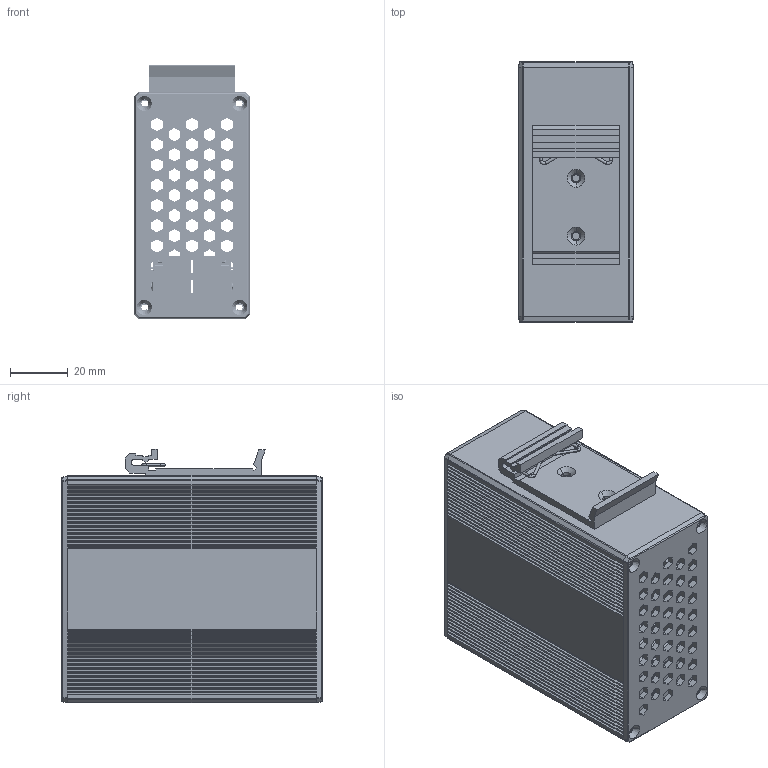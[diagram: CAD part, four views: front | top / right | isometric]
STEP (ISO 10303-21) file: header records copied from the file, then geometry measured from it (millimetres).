
FILE_DESCRIPTION((''),'2;1');
FILE_NAME('PRO_EC_6_SW0001','2025-12-04T09:40:21',('Administrator'),(''),'CREO PARAMETRIC BY PTC INC, 2022073','CREO PARAMETRIC BY PTC INC, 2022073','');
FILE_SCHEMA(('CONFIG_CONTROL_DESIGN'));
Products named in the file (1): PRO_EC_6_SW0001
Bounding box: 40 x 90 x 87.8 mm (x, y, z)
Volume: 70384.3 mm3; surface area: 97727.6 mm2
Topology: 20 solids, 20 shells, 9335 faces, 27589 edges, 18168 vertices
Faces by surface type: plane 7127, cylinder 1567, extrusion 427, cone 96, torus 78, bspline 36, sphere 4
Entity records: 315061 total; most frequent: CARTESIAN_POINT 64468, ORIENTED_EDGE 55170, DIRECTION 47762, EDGE_CURVE 27585, VECTOR 23126, LINE 22699, VERTEX_POINT 18168, AXIS2_PLACEMENT_3D 12318
